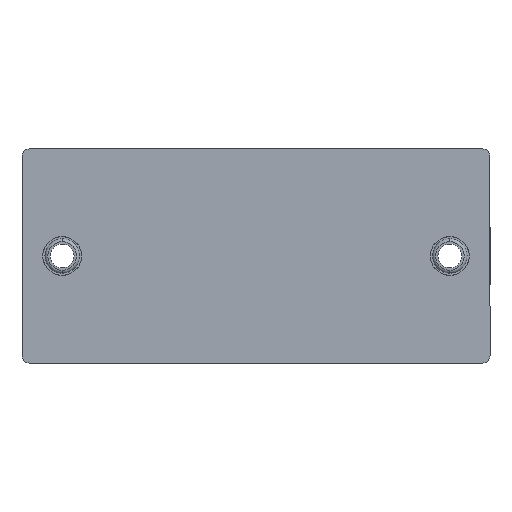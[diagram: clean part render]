
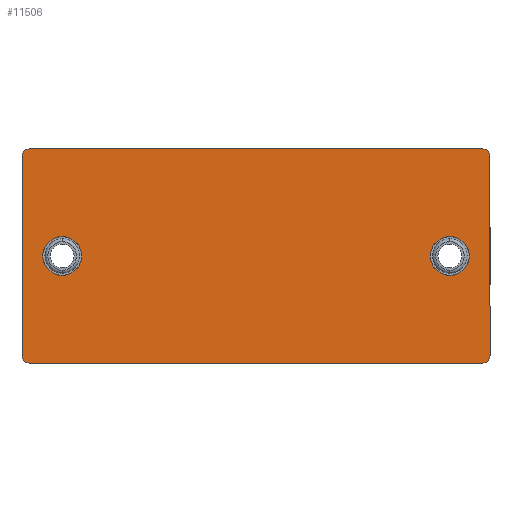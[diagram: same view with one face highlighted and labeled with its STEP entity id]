
A CAD part, front view. The second image highlights one B-rep face of the part: STEP entity #11506.
In plain terms, the highlighted planar face has unit normal (0, -1, 0).
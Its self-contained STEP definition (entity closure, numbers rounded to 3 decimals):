
#104 = AXIS2_PLACEMENT_3D ( 'NONE', #3384, #12463, #4699 ) ;
#139 = AXIS2_PLACEMENT_3D ( 'NONE', #3747, #12868, #6358 ) ;
#218 = EDGE_CURVE ( 'NONE', #8828, #3030, #3091, .T. ) ;
#278 = EDGE_LOOP ( 'NONE', ( #3745, #4061 ) ) ;
#388 = VECTOR ( 'NONE', #13507, 1000. ) ;
#492 = PLANE ( 'NONE',  #13909 ) ;
#522 = AXIS2_PLACEMENT_3D ( 'NONE', #4796, #13859, #6085 ) ;
#854 = CARTESIAN_POINT ( 'NONE',  ( 80.9, 0., -1.3 ) ) ;
#897 = CARTESIAN_POINT ( 'NONE',  ( 73.95, 0., -18.498 ) ) ;
#945 = ORIENTED_EDGE ( 'NONE', *, *, #10811, .F. ) ;
#1147 = CARTESIAN_POINT ( 'NONE',  ( 0., 0., -1.3 ) ) ;
#1257 = CIRCLE ( 'NONE', #16526, 3.356 ) ;
#1298 = FACE_OUTER_BOUND ( 'NONE', #7698, .T. ) ;
#1671 = VERTEX_POINT ( 'NONE', #8262 ) ;
#1691 = EDGE_CURVE ( 'NONE', #8828, #14790, #14182, .T. ) ;
#1713 = CIRCLE ( 'NONE', #104, 1.3 ) ;
#1835 = CARTESIAN_POINT ( 'NONE',  ( 1.3, 0., -1.3 ) ) ;
#1892 = CIRCLE ( 'NONE', #1996, 3.356 ) ;
#1996 = AXIS2_PLACEMENT_3D ( 'NONE', #10747, #2983, #12046 ) ;
#2201 = DIRECTION ( 'NONE',  ( 0., 0., -1. ) ) ;
#2211 = DIRECTION ( 'NONE',  ( 0., -1., 0. ) ) ;
#2364 = AXIS2_PLACEMENT_3D ( 'NONE', #897, #9956, #2201 ) ;
#2402 = DIRECTION ( 'NONE',  ( 1., 0., 0. ) ) ;
#2498 = CARTESIAN_POINT ( 'NONE',  ( 1.3, 0., 0. ) ) ;
#2557 = CARTESIAN_POINT ( 'NONE',  ( 1.3, 0., -37. ) ) ;
#2944 = EDGE_CURVE ( 'NONE', #13035, #1671, #1892, .T. ) ;
#2983 = DIRECTION ( 'NONE',  ( 0., -1., 0. ) ) ;
#3030 = VERTEX_POINT ( 'NONE', #2557 ) ;
#3091 = CIRCLE ( 'NONE', #139, 1.3 ) ;
#3104 = DIRECTION ( 'NONE',  ( 0., -1., 0. ) ) ;
#3158 = DIRECTION ( 'NONE',  ( 0., 0., -1. ) ) ;
#3384 = CARTESIAN_POINT ( 'NONE',  ( 79.6, 0., -1.3 ) ) ;
#3404 = DIRECTION ( 'NONE',  ( 0., 0., -1. ) ) ;
#3745 = ORIENTED_EDGE ( 'NONE', *, *, #16218, .F. ) ;
#3747 = CARTESIAN_POINT ( 'NONE',  ( 1.3, 0., -35.7 ) ) ;
#3983 = VERTEX_POINT ( 'NONE', #13282 ) ;
#4005 = VECTOR ( 'NONE', #11964, 1000. ) ;
#4061 = ORIENTED_EDGE ( 'NONE', *, *, #2944, .F. ) ;
#4103 = VECTOR ( 'NONE', #3404, 1000. ) ;
#4699 = DIRECTION ( 'NONE',  ( 0., 0., -1. ) ) ;
#4751 = DIRECTION ( 'NONE',  ( 0., -1., 0. ) ) ;
#4796 = CARTESIAN_POINT ( 'NONE',  ( 79.6, 0., -35.7 ) ) ;
#4939 = ORIENTED_EDGE ( 'NONE', *, *, #218, .T. ) ;
#5122 = EDGE_CURVE ( 'NONE', #8364, #6092, #14429, .T. ) ;
#5201 = CARTESIAN_POINT ( 'NONE',  ( 79.6, 0., 0. ) ) ;
#5349 = ORIENTED_EDGE ( 'NONE', *, *, #15519, .F. ) ;
#5361 = VERTEX_POINT ( 'NONE', #5201 ) ;
#5442 = ORIENTED_EDGE ( 'NONE', *, *, #5122, .F. ) ;
#5535 = CARTESIAN_POINT ( 'NONE',  ( 0., 0., -37. ) ) ;
#5735 = VECTOR ( 'NONE', #2402, 1000. ) ;
#5830 = CARTESIAN_POINT ( 'NONE',  ( 73.95, 0., -21.854 ) ) ;
#6003 = FACE_BOUND ( 'NONE', #11820, .T. ) ;
#6054 = CIRCLE ( 'NONE', #9318, 1.3 ) ;
#6085 = DIRECTION ( 'NONE',  ( 0., 0., -1. ) ) ;
#6092 = VERTEX_POINT ( 'NONE', #7023 ) ;
#6196 = VERTEX_POINT ( 'NONE', #9756 ) ;
#6358 = DIRECTION ( 'NONE',  ( 0., 0., -1. ) ) ;
#6685 = EDGE_CURVE ( 'NONE', #14144, #14790, #6054, .T. ) ;
#6725 = VERTEX_POINT ( 'NONE', #5830 ) ;
#6990 = EDGE_CURVE ( 'NONE', #14144, #5361, #9141, .T. ) ;
#7023 = CARTESIAN_POINT ( 'NONE',  ( 80.9, 0., -35.7 ) ) ;
#7554 = ORIENTED_EDGE ( 'NONE', *, *, #10416, .T. ) ;
#7698 = EDGE_LOOP ( 'NONE', ( #945, #7848, #5442, #7554, #14826, #15902, #11835, #4939 ) ) ;
#7808 = FACE_BOUND ( 'NONE', #278, .T. ) ;
#7848 = ORIENTED_EDGE ( 'NONE', *, *, #13940, .T. ) ;
#8262 = CARTESIAN_POINT ( 'NONE',  ( 6.95, 0., -21.854 ) ) ;
#8364 = VERTEX_POINT ( 'NONE', #854 ) ;
#8588 = CIRCLE ( 'NONE', #522, 1.3 ) ;
#8828 = VERTEX_POINT ( 'NONE', #14373 ) ;
#9141 = LINE ( 'NONE', #12723, #5735 ) ;
#9318 = AXIS2_PLACEMENT_3D ( 'NONE', #1835, #10914, #3158 ) ;
#9756 = CARTESIAN_POINT ( 'NONE',  ( 73.95, 0., -15.142 ) ) ;
#9956 = DIRECTION ( 'NONE',  ( 0., -1., 0. ) ) ;
#9964 = CARTESIAN_POINT ( 'NONE',  ( 6.95, 0., -18.498 ) ) ;
#10416 = EDGE_CURVE ( 'NONE', #8364, #5361, #1713, .T. ) ;
#10486 = LINE ( 'NONE', #5535, #4005 ) ;
#10747 = CARTESIAN_POINT ( 'NONE',  ( 6.95, 0., -18.498 ) ) ;
#10811 = EDGE_CURVE ( 'NONE', #3983, #3030, #10486, .T. ) ;
#10866 = CARTESIAN_POINT ( 'NONE',  ( 0., 0., 0. ) ) ;
#10914 = DIRECTION ( 'NONE',  ( 0., -1., 0. ) ) ;
#11086 = EDGE_CURVE ( 'NONE', #6725, #6196, #16143, .T. ) ;
#11267 = DIRECTION ( 'NONE',  ( 0., 0., -1. ) ) ;
#11506 = ADVANCED_FACE ( 'NONE', ( #6003, #7808, #1298 ), #492, .T. ) ;
#11820 = EDGE_LOOP ( 'NONE', ( #13893, #5349 ) ) ;
#11835 = ORIENTED_EDGE ( 'NONE', *, *, #1691, .F. ) ;
#11964 = DIRECTION ( 'NONE',  ( -1., 0., 0. ) ) ;
#12046 = DIRECTION ( 'NONE',  ( 0., 0., -1. ) ) ;
#12172 = DIRECTION ( 'NONE',  ( 0., 0., -1. ) ) ;
#12463 = DIRECTION ( 'NONE',  ( 0., -1., 0. ) ) ;
#12505 = CARTESIAN_POINT ( 'NONE',  ( 73.95, 0., -18.498 ) ) ;
#12723 = CARTESIAN_POINT ( 'NONE',  ( 0., 0., 0. ) ) ;
#12868 = DIRECTION ( 'NONE',  ( 0., -1., 0. ) ) ;
#13035 = VERTEX_POINT ( 'NONE', #16501 ) ;
#13282 = CARTESIAN_POINT ( 'NONE',  ( 79.6, 0., -37. ) ) ;
#13507 = DIRECTION ( 'NONE',  ( 0., 0., 1. ) ) ;
#13786 = CARTESIAN_POINT ( 'NONE',  ( 80.9, 0., 0. ) ) ;
#13819 = DIRECTION ( 'NONE',  ( 0., 0., -1. ) ) ;
#13859 = DIRECTION ( 'NONE',  ( 0., -1., 0. ) ) ;
#13893 = ORIENTED_EDGE ( 'NONE', *, *, #11086, .F. ) ;
#13909 = AXIS2_PLACEMENT_3D ( 'NONE', #10866, #3104, #12172 ) ;
#13940 = EDGE_CURVE ( 'NONE', #3983, #6092, #8588, .T. ) ;
#14144 = VERTEX_POINT ( 'NONE', #2498 ) ;
#14182 = LINE ( 'NONE', #16033, #388 ) ;
#14373 = CARTESIAN_POINT ( 'NONE',  ( 0., 0., -35.7 ) ) ;
#14429 = LINE ( 'NONE', #13786, #4103 ) ;
#14790 = VERTEX_POINT ( 'NONE', #1147 ) ;
#14825 = CIRCLE ( 'NONE', #15254, 3.356 ) ;
#14826 = ORIENTED_EDGE ( 'NONE', *, *, #6990, .F. ) ;
#15254 = AXIS2_PLACEMENT_3D ( 'NONE', #9964, #2211, #11267 ) ;
#15519 = EDGE_CURVE ( 'NONE', #6196, #6725, #1257, .T. ) ;
#15902 = ORIENTED_EDGE ( 'NONE', *, *, #6685, .T. ) ;
#16033 = CARTESIAN_POINT ( 'NONE',  ( 0., 0., 0. ) ) ;
#16143 = CIRCLE ( 'NONE', #2364, 3.356 ) ;
#16218 = EDGE_CURVE ( 'NONE', #1671, #13035, #14825, .T. ) ;
#16501 = CARTESIAN_POINT ( 'NONE',  ( 6.95, 0., -15.142 ) ) ;
#16526 = AXIS2_PLACEMENT_3D ( 'NONE', #12505, #4751, #13819 ) ;
